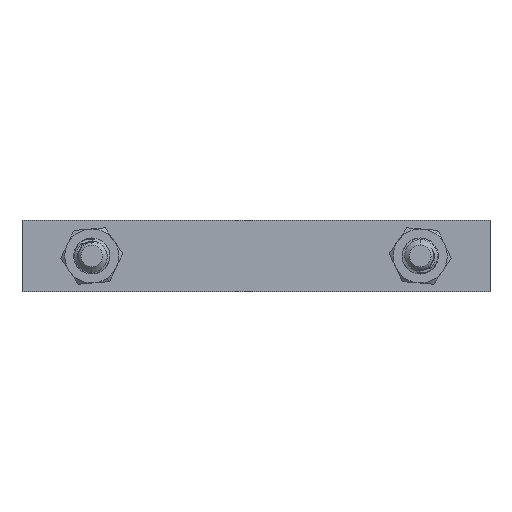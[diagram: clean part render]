
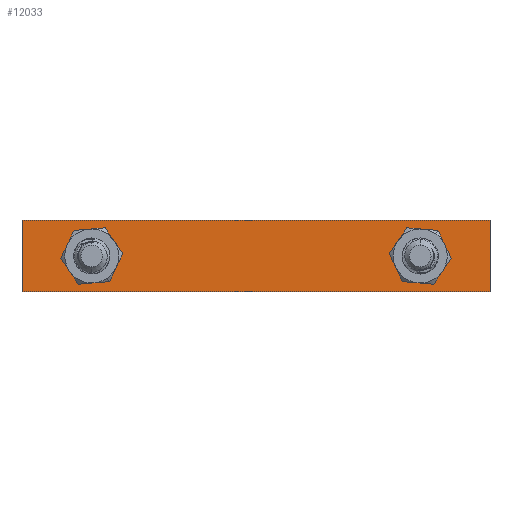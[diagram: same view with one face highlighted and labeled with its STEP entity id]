
A CAD part, front view. The second image highlights one B-rep face of the part: STEP entity #12033.
In plain terms, the highlighted planar face has unit normal (0, -1, 0).
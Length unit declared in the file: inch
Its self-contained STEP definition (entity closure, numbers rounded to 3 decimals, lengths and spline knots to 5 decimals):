
#677 = CIRCLE ( 'NONE', #14402, 0.3125 ) ;
#1183 = DIRECTION ( 'NONE',  ( 0., 1., 0. ) ) ;
#1373 = ORIENTED_EDGE ( 'NONE', *, *, #3562, .T. ) ;
#1493 = VERTEX_POINT ( 'NONE', #14782 ) ;
#1721 = AXIS2_PLACEMENT_3D ( 'NONE', #11603, #10138, #15728 ) ;
#2117 = VECTOR ( 'NONE', #16888, 39.37008 ) ;
#2160 = CIRCLE ( 'NONE', #10037, 0.3125 ) ;
#2467 = EDGE_LOOP ( 'NONE', ( #10423, #3151 ) ) ;
#2860 = VERTEX_POINT ( 'NONE', #15127 ) ;
#2862 = CARTESIAN_POINT ( 'NONE',  ( 0.96875, 0.05, -0.3125 ) ) ;
#3151 = ORIENTED_EDGE ( 'NONE', *, *, #14857, .T. ) ;
#3167 = CIRCLE ( 'NONE', #5800, 0.3125 ) ;
#3377 = DIRECTION ( 'NONE',  ( 0., 0., -1. ) ) ;
#3562 = EDGE_CURVE ( 'Edge13', #2860, #4680, #10700, .T. ) ;
#3856 = CARTESIAN_POINT ( 'NONE',  ( 6.5, 0.05, -0.49749 ) ) ;
#3897 = CARTESIAN_POINT ( 'NONE',  ( 6.5, 0.05, 0.49749 ) ) ;
#4680 = VERTEX_POINT ( 'NONE', #3856 ) ;
#4907 = VERTEX_POINT ( 'NONE', #9944 ) ;
#4975 = CARTESIAN_POINT ( 'NONE',  ( 0.96875, 0.05, 0. ) ) ;
#5415 = DIRECTION ( 'NONE',  ( -1., 0., 0. ) ) ;
#5481 = DIRECTION ( 'NONE',  ( 0., 0., -1. ) ) ;
#5800 = AXIS2_PLACEMENT_3D ( 'NONE', #14088, #11343, #16926 ) ;
#5974 = DIRECTION ( 'NONE',  ( 0., 0., -1. ) ) ;
#6121 = FACE_BOUND ( 'NONE', #2467, .T. ) ;
#6235 = EDGE_LOOP ( 'NONE', ( #16716, #14691, #1373, #13732 ) ) ;
#6337 = EDGE_LOOP ( 'NONE', ( #12350, #11511 ) ) ;
#6788 = CARTESIAN_POINT ( 'NONE',  ( 6.5, 0.05, 0.49749 ) ) ;
#7483 = DIRECTION ( 'NONE',  ( 0., -1., 0. ) ) ;
#7594 = DIRECTION ( 'NONE',  ( 1., 0., 0. ) ) ;
#7889 = DIRECTION ( 'NONE',  ( 0., 1., 0. ) ) ;
#8125 = VECTOR ( 'NONE', #7594, 39.37008 ) ;
#8145 = VERTEX_POINT ( 'NONE', #2862 ) ;
#8465 = EDGE_CURVE ( 'Edge10', #16296, #4680, #10177, .T. ) ;
#8766 = FACE_OUTER_BOUND ( 'NONE', #6235, .T. ) ;
#9944 = CARTESIAN_POINT ( 'NONE',  ( 0.96875, 0.05, 0.3125 ) ) ;
#10037 = AXIS2_PLACEMENT_3D ( 'NONE', #15195, #7889, #13635 ) ;
#10138 = DIRECTION ( 'NONE',  ( 0., 1., 0. ) ) ;
#10177 = LINE ( 'NONE', #15493, #14126 ) ;
#10423 = ORIENTED_EDGE ( 'NONE', *, *, #11577, .T. ) ;
#10700 = LINE ( 'NONE', #12063, #8125 ) ;
#10934 = CARTESIAN_POINT ( 'NONE',  ( 0., 0.05, 0.49749 ) ) ;
#11343 = DIRECTION ( 'NONE',  ( 0., 1., 0. ) ) ;
#11511 = ORIENTED_EDGE ( 'NONE', *, *, #13510, .T. ) ;
#11577 = EDGE_CURVE ( 'Edge12', #8145, #4907, #3167, .T. ) ;
#11583 = LINE ( 'NONE', #17165, #2117 ) ;
#11603 = CARTESIAN_POINT ( 'NONE',  ( 5.53125, 0.05, 0. ) ) ;
#11638 = AXIS2_PLACEMENT_3D ( 'NONE', #12872, #7483, #3377 ) ;
#12013 = LINE ( 'NONE', #6788, #17888 ) ;
#12033 = ADVANCED_FACE ( 'Face6', ( #13056, #8766, #6121 ), #17092, .T. ) ;
#12063 = CARTESIAN_POINT ( 'NONE',  ( 6.5, 0.05, -0.49749 ) ) ;
#12350 = ORIENTED_EDGE ( 'NONE', *, *, #16974, .T. ) ;
#12689 = CARTESIAN_POINT ( 'NONE',  ( 5.53125, 0.05, -0.3125 ) ) ;
#12872 = CARTESIAN_POINT ( 'NONE',  ( 0., 0.05, 0. ) ) ;
#13056 = FACE_BOUND ( 'NONE', #6337, .T. ) ;
#13510 = EDGE_CURVE ( 'Edge7', #1493, #13585, #14859, .T. ) ;
#13585 = VERTEX_POINT ( 'NONE', #12689 ) ;
#13635 = DIRECTION ( 'NONE',  ( 0., 0., 1. ) ) ;
#13732 = ORIENTED_EDGE ( 'NONE', *, *, #8465, .F. ) ;
#13926 = EDGE_CURVE ( 'Edge6', #16293, #2860, #11583, .T. ) ;
#14088 = CARTESIAN_POINT ( 'NONE',  ( 0.96875, 0.05, 0. ) ) ;
#14126 = VECTOR ( 'NONE', #5974, 39.37008 ) ;
#14402 = AXIS2_PLACEMENT_3D ( 'NONE', #4975, #1183, #5481 ) ;
#14691 = ORIENTED_EDGE ( 'NONE', *, *, #13926, .T. ) ;
#14782 = CARTESIAN_POINT ( 'NONE',  ( 5.53125, 0.05, 0.3125 ) ) ;
#14857 = EDGE_CURVE ( 'Edge12', #4907, #8145, #677, .T. ) ;
#14859 = CIRCLE ( 'NONE', #1721, 0.3125 ) ;
#15127 = CARTESIAN_POINT ( 'NONE',  ( 0., 0.05, -0.49749 ) ) ;
#15195 = CARTESIAN_POINT ( 'NONE',  ( 5.53125, 0.05, 0. ) ) ;
#15321 = EDGE_CURVE ( 'NONE', #16296, #16293, #12013, .T. ) ;
#15493 = CARTESIAN_POINT ( 'NONE',  ( 6.5, 0.05, 0.875 ) ) ;
#15728 = DIRECTION ( 'NONE',  ( 0., 0., 1. ) ) ;
#16293 = VERTEX_POINT ( 'NONE', #10934 ) ;
#16296 = VERTEX_POINT ( 'NONE', #3897 ) ;
#16716 = ORIENTED_EDGE ( 'NONE', *, *, #15321, .T. ) ;
#16888 = DIRECTION ( 'NONE',  ( 0., 0., -1. ) ) ;
#16926 = DIRECTION ( 'NONE',  ( 0., 0., -1. ) ) ;
#16974 = EDGE_CURVE ( 'Edge7', #13585, #1493, #2160, .T. ) ;
#17092 = PLANE ( 'NONE',  #11638 ) ;
#17165 = CARTESIAN_POINT ( 'NONE',  ( 0., 0.05, 0. ) ) ;
#17888 = VECTOR ( 'NONE', #5415, 39.37008 ) ;
